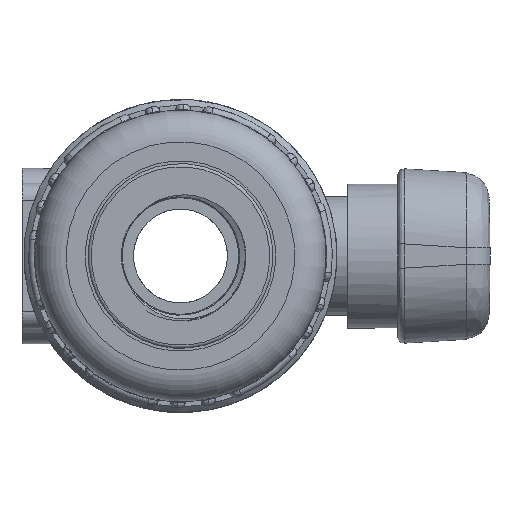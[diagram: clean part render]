
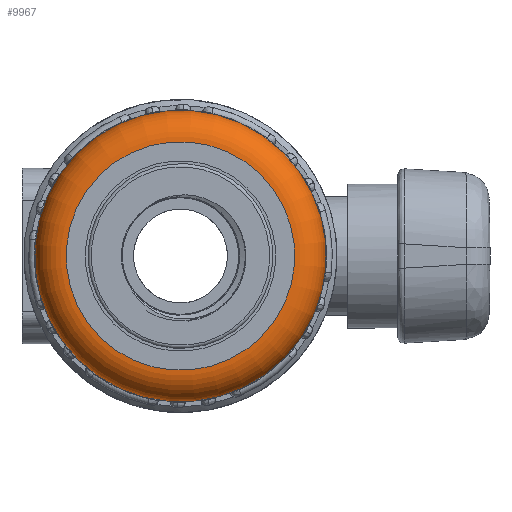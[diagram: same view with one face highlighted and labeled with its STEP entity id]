
A CAD part, front view. The second image highlights one B-rep face of the part: STEP entity #9967.
In plain terms, the highlighted toroidal (fillet/blend) face has major radius 18.25 mm and minor radius 5 mm.
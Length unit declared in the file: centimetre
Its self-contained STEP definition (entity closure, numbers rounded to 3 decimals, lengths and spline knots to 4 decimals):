
#1952=TOROIDAL_SURFACE('',#10658,1.825,0.5);
#1975=FACE_BOUND('',#2833,.T.);
#2240=FACE_OUTER_BOUND('',#2832,.T.);
#2832=EDGE_LOOP('',(#7087));
#2833=EDGE_LOOP('',(#7088));
#3435=CIRCLE('',#10656,1.825);
#3437=CIRCLE('',#10659,2.325);
#4065=VERTEX_POINT('',#40091);
#4067=VERTEX_POINT('',#40096);
#5194=EDGE_CURVE('',#4065,#4065,#3435,.T.);
#5196=EDGE_CURVE('',#4067,#4067,#3437,.T.);
#7087=ORIENTED_EDGE('',*,*,#5196,.F.);
#7088=ORIENTED_EDGE('',*,*,#5194,.T.);
#9967=ADVANCED_FACE('',(#2240,#1975),#1952,.T.);
#10656=AXIS2_PLACEMENT_3D('',#40092,#12089,#12090);
#10658=AXIS2_PLACEMENT_3D('',#40095,#12093,#12094);
#10659=AXIS2_PLACEMENT_3D('',#40097,#12095,#12096);
#12089=DIRECTION('center_axis',(0.,1.,0.));
#12090=DIRECTION('ref_axis',(-0.413,0.,-0.911));
#12093=DIRECTION('center_axis',(0.,1.,0.));
#12094=DIRECTION('ref_axis',(0.911,0.,-0.413));
#12095=DIRECTION('center_axis',(0.,1.,0.));
#12096=DIRECTION('ref_axis',(-0.413,0.,-0.911));
#40091=CARTESIAN_POINT('',(0.7538,-3.06,1.6621));
#40092=CARTESIAN_POINT('Origin',(0.,-3.06,0.));
#40095=CARTESIAN_POINT('Origin',(0.,-2.56,0.));
#40096=CARTESIAN_POINT('',(0.9603,-2.56,2.1174));
#40097=CARTESIAN_POINT('Origin',(0.,-2.56,0.));
